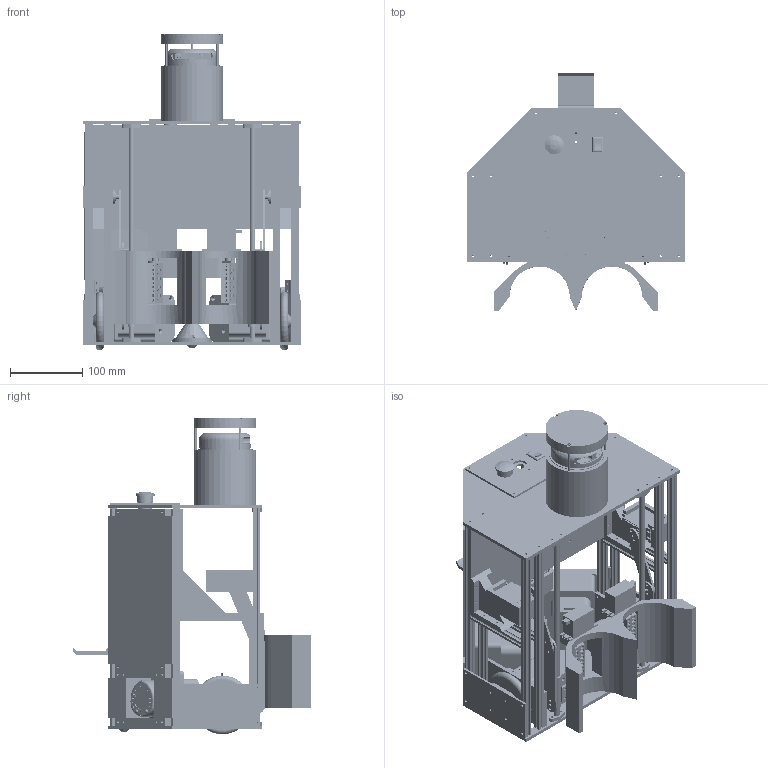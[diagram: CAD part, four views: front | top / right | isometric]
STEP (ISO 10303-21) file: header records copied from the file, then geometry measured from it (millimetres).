
FILE_DESCRIPTION(/* description */ ('STEP AP242','CAx-IF Rec.Pracs.---Representation and Presentation of Product Manufacturing Information (PMI)---4.0---2014-10-13','CAx-IF Rec.Pracs.---3D Tessellated Geometry---0.4---2014-09-14','2;1'),/* implementation_level */ '2;1');
FILE_NAME(/* name */ '684b44a8cdf4356f673e16d7',/* time_stamp */ '2025-06-12T21:20:43Z',/* author */ (''),/* organization */ (''),/* preprocessor_version */ 'ST-DEVELOPER v20',/* originating_system */ 'ONSHAPE BY PTC INC, 1.199',/* authorisation */ ' ');
FILE_SCHEMA (('AP242_MANAGED_MODEL_BASED_3D_ENGINEERING_MIM_LF { 1 0 10303 442 1 1 4 }'));
Products named in the file (59): Assemblage_V5; MB300; Part 1; 608ZZ - 8x7x22; MB100; 23HS22-1504S; Millieu-support-b; Part 2; Lidar; Batterie; cul-b; bille folle tige 15mm; switch_second; Assembly 1 <2>; Palonnier rond; Top-support-b; Assembly 1 <6>; Assembly 1 <1>; switch_main
Assembly tree (122 placements, depth 3):
  Assemblage_V5
    MB300  x10
    Part 1  x4
    Part 1  x16
    Part 1
    608ZZ - 8x7x22  x2
    MB100  x4
    Part 1
    23HS22-1504S  x2
    Part 1
    23HS22-1504S  x2
    Part 1
    Part 1  x4
    Part 1  x2
    Part 1  x2
    Part 1  x2
    Part 1  x2
    Millieu-support-b
    Part 2  x2
    Lidar
    Part 1
    Part 1  x2
    23HS22-1504S  x2
    Part 1  x2
    Batterie
    Part 1  x2
    Part 1  x2
    Part 1  x3
    Part 1  x2
    23HS22-1504S  x2
    cul-b
    Part 1
    Part 1  x2
    bille folle tige 15mm
    Part 1  x2
    23HS22-1504S  x2
    Part 1
    23HS22-1504S  x2
    Part 1  x2
    Part 1  x2
    Part 1
    Part 1
    Part 1
    Part 2
    switch_second
    Assembly 1 <2>
      Part 1  x2
      Part 1
      Palonnier rond  x2
      Part 1  x2
    Top-support-b
    Assembly 1 <6>
      Part 1
      Part 1
      Palonnier rond
      Part 1
    Assembly 1 <1>
      cul-b
      Top-support-b
      Batterie
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Bounding box: 302 x 328.65 x 436.85 mm (x, y, z)
Volume: 3537603.9 mm3; surface area: 1464151.2 mm2
Topology: 119 solids, 119 shells, 4052 faces, 10426 edges, 6810 vertices
Faces by surface type: plane 2452, cylinder 1335, torus 128, bspline 97, cone 23, sphere 17
Full cylindrical faces by diameter (mm): 1.265 x8, 2 x20, 2.2 x4, 2.5 x4, 3 x78, 3.2 x162, 3.3 x46, 3.4 x34, 4 x4, 4.2 x30, 4.4 x24, 5 x1, 5.1 x16, 5.2 x28, 5.4 x4, 5.5 x5, 6 x10, 6.35 x4, 6.5 x2, 7 x6, 7.5 x4, 7.8 x2, 8 x9, 8.2 x7, 9 x3, 10.7 x5, 11 x1, 12.5 x1, 12.667 x4, 13 x5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
Entity records: 64916 total; most frequent: CARTESIAN_POINT 15096, DIRECTION 9660, ORIENTED_EDGE 8924, EDGE_CURVE 4462, AXIS2_PLACEMENT_3D 3452, VERTEX_POINT 3139, FACE_BOUND 2907, EDGE_LOOP 2903
